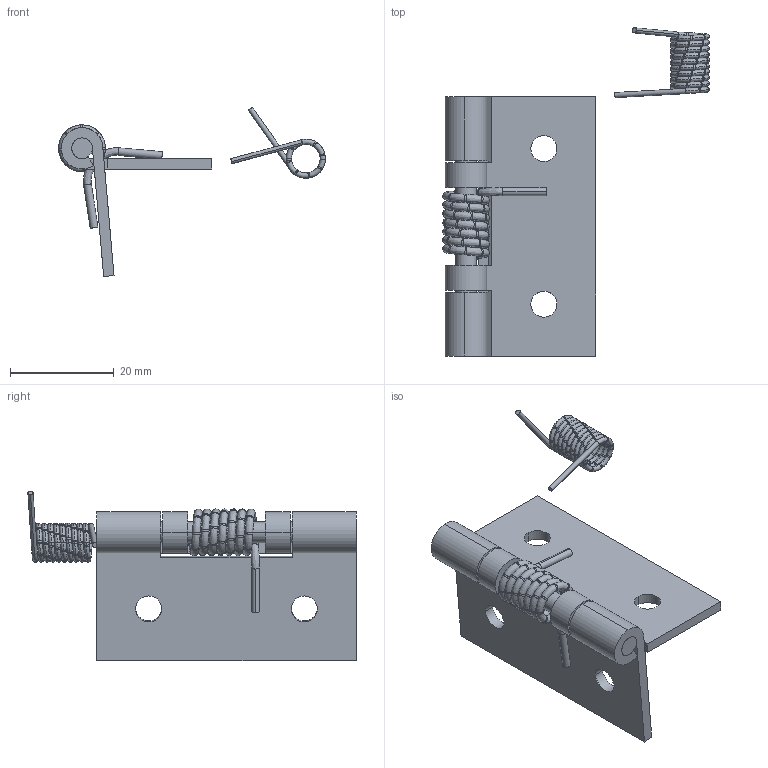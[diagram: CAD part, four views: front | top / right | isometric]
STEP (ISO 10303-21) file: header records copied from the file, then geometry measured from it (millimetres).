
FILE_DESCRIPTION((''),'2;1');
FILE_NAME('6068.01.stp','2015-09-24T14:45:08',(''),(''),'Mechanical Desktop 2006','Mechanical Desktop 2006',', , ');
FILE_SCHEMA(('CONFIG_CONTROL_DESIGN'));
Length unit declared in the file: millimetre
Products named in the file (6): 6068.01; TEIL2; TEIL1; TEIL3; DREHFEDERN - 1.500000 X 9.000000 X 7.000000; DREHFEDERN - 1.000000 X 7.500000 X 9.000000
Assembly tree (5 placements, depth 2):
  6068.01
    TEIL2
    TEIL1
    TEIL3
    DREHFEDERN - 1.500000 X 9.000000 X 7.000000
    DREHFEDERN - 1.000000 X 7.500000 X 9.000000
Bounding box: 51.43 x 63.3 x 32.6 mm (x, y, z)
Volume: 6403.3 mm3; surface area: 8553 mm2
Topology: 5 solids, 5 shells, 581 faces, 1711 edges, 1140 vertices
Faces by surface type: cylinder 304, torus 190, bspline 57, plane 30
Entity records: 21861 total; most frequent: CARTESIAN_POINT 5074, DIRECTION 4114, ORIENTED_EDGE 3422, AXIS2_PLACEMENT_3D 1875, EDGE_CURVE 1711, CIRCLE 1345, VERTEX_POINT 1140, EDGE_LOOP 589
